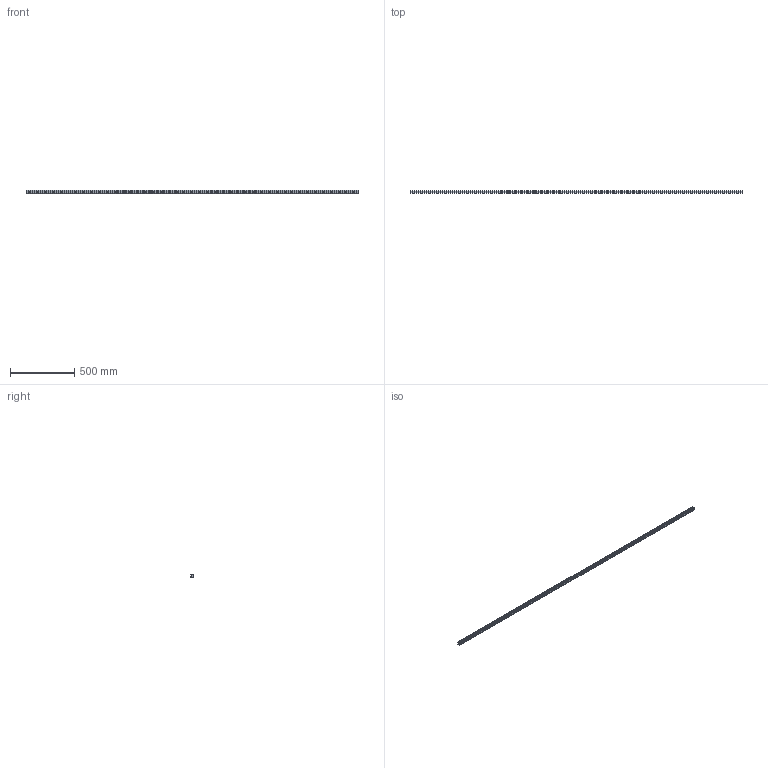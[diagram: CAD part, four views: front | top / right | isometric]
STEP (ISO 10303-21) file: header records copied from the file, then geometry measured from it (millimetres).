
FILE_DESCRIPTION (( 'STEP AP203' ), '1' );
FILE_NAME ('L1018.25R-2580.step', '2023-08-06T10:42:56', ( '' ), ( '' ), 'SwSTEP 2.0', 'SolidWorks 2019', '' );
FILE_SCHEMA (( 'CONFIG_CONTROL_DESIGN' ));
Length unit declared in the file: millimetre
Products named in the file (1): L1018.25R-2580
Bounding box: 2580 x 21.8 x 25 mm (x, y, z)
Volume: 1072991.3 mm3; surface area: 257039.1 mm2
Topology: 1 solids, 1 shells, 416 faces, 941 edges, 527 vertices
Faces by surface type: cylinder 175, cone 172, plane 69
Entity records: 11060 total; most frequent: DIRECTION 2125, CARTESIAN_POINT 1799, ORIENTED_EDGE 1710, EDGE_CURVE 855, AXIS2_PLACEMENT_3D 853, VERTEX_POINT 527, EDGE_LOOP 502, CIRCLE 436
